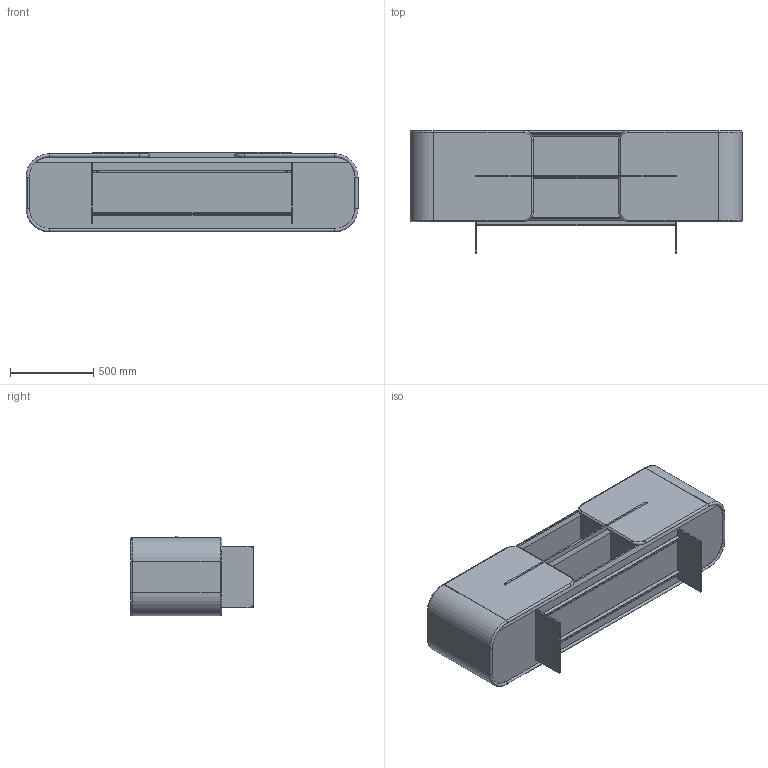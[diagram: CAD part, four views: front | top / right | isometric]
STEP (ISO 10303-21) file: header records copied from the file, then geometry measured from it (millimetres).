
FILE_DESCRIPTION (( 'STEP AP203' ), '1' );
FILE_NAME ('NI1BR_Madia Ninfa_200x48x73.STEP', '2024-08-02T09:11:13', ( '' ), ( '' ), 'SwSTEP 2.0', 'SolidWorks 2022', '' );
FILE_SCHEMA (( 'CONFIG_CONTROL_DESIGN' ));
Length unit declared in the file: millimetre
Products named in the file (10): reggipiano KUBIC; Madia Ninfa; MADIA NINFA_TOP; NI1BR_Madia Ninfa_200x48x73; NI000053_B-02-BASE METALLO X MADIA NINFA_GAMBA; NI000053_A-02-BASE METALLO X MADIA NINFA_TRAVERSO; VITE TSPEI M6 X 40_M6x20mm HEX; NI000053-02-BASE METALLO MADIA NINFA GREZZO; 000000000000000156_01-00-SET RIPIANI IN CRISTALLO PER CAMPIONE MADIA CURVA_ridotto; Parte4^reggipiano KUBIC
Assembly tree (22 placements, depth 3):
  NI1BR_Madia Ninfa_200x48x73
    Madia Ninfa
    MADIA NINFA_TOP
    NI000053-02-BASE METALLO MADIA NINFA GREZZO
      NI000053_A-02-BASE METALLO X MADIA NINFA_TRAVERSO  x2
      NI000053_B-02-BASE METALLO X MADIA NINFA_GAMBA  x2
    VITE TSPEI M6 X 40_M6x20mm HEX  x4
    000000000000000156_01-00-SET RIPIANI IN CRISTALLO PER CAMPIONE MADIA CURVA_ridotto  x2
    reggipiano KUBIC  x8
      Parte4^reggipiano KUBIC
Bounding box: 2000 x 740.08 x 480 mm (x, y, z)
Volume: 11205525.5 mm3; surface area: 13173981.3 mm2
Topology: 27 solids, 37 shells, 634 faces, 1538 edges, 986 vertices
Faces by surface type: plane 358, cylinder 208, torus 36, cone 32
Entity records: 10707 total; most frequent: CARTESIAN_POINT 2641, DIRECTION 1438, ORIENTED_EDGE 1360, EDGE_CURVE 680, AXIS2_PLACEMENT_3D 501, VERTEX_POINT 442, LINE 436, VECTOR 436
